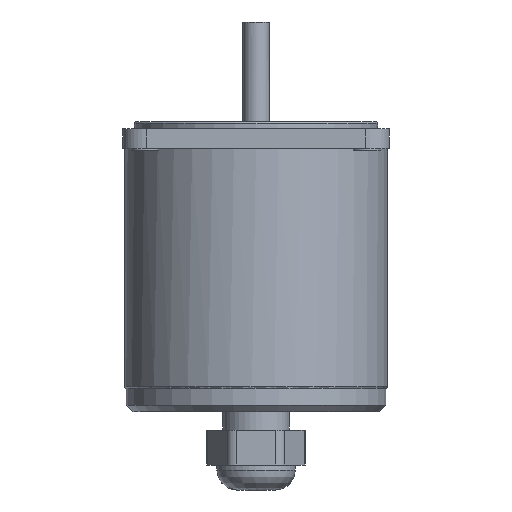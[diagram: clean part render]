
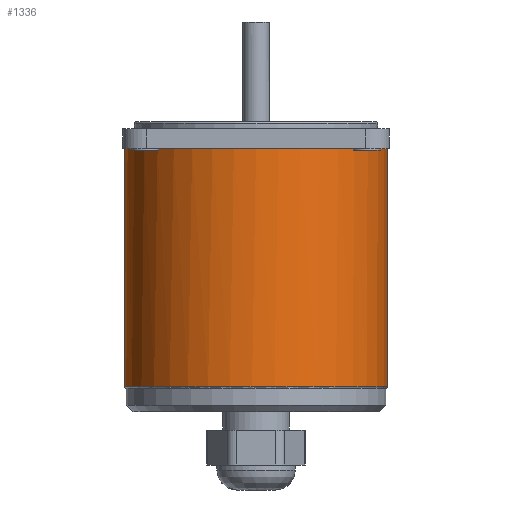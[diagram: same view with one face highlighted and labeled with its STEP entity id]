
A CAD part, front view. The second image highlights one B-rep face of the part: STEP entity #1336.
In plain terms, the highlighted cylindrical face has radius 39.5 mm (diameter 79 mm), a full revolution.
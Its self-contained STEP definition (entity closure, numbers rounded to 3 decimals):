
#1258=CARTESIAN_POINT('',(-39.5,0.,-71.5));
#1259=VERTEX_POINT('',#1258);
#1260=CARTESIAN_POINT('',(0.0,0.0,-71.5));
#1261=DIRECTION('',(0.0,0.0,-1.0));
#1262=DIRECTION('',(1.0,0.0,0.0));
#1263=AXIS2_PLACEMENT_3D('',#1260,#1261,#1262);
#1264=CIRCLE('',#1263,39.5);
#1265=EDGE_CURVE('',#1259,#1259,#1264,.T.);
#1270=CARTESIAN_POINT('',(0.0,0.0,0.0));
#1271=DIRECTION('',(0.0,0.0,-1.0));
#1272=DIRECTION('',(1.0,0.0,0.0));
#1273=AXIS2_PLACEMENT_3D('',#1270,#1271,#1272);
#1274=CYLINDRICAL_SURFACE('',#1273,39.5);
#1275=CARTESIAN_POINT('',(-27.65,28.209,-61.));
#1276=VERTEX_POINT('',#1275);
#1277=CARTESIAN_POINT('',(-27.65,28.209,0.0));
#1278=VERTEX_POINT('',#1277);
#1279=CARTESIAN_POINT('',(-27.65,28.209,-61.));
#1280=DIRECTION('',(0.0,0.0,1.0));
#1281=VECTOR('',#1280,61.);
#1282=LINE('',#1279,#1281);
#1283=EDGE_CURVE('',#1276,#1278,#1282,.T.);
#1284=ORIENTED_EDGE('',*,*,#1283,.F.);
#1285=CARTESIAN_POINT('',(-26.663,29.144,-62.0));
#1286=VERTEX_POINT('',#1285);
#1287=CARTESIAN_POINT('',(-26.663,29.144,-62.));
#1288=CARTESIAN_POINT('',(-26.922,28.906,-62.));
#1289=CARTESIAN_POINT('',(-27.282,28.567,-61.863));
#1290=CARTESIAN_POINT('',(-27.594,28.264,-61.4));
#1291=CARTESIAN_POINT('',(-27.65,28.209,-61.134));
#1292=CARTESIAN_POINT('',(-27.65,28.209,-61.));
#1293=B_SPLINE_CURVE_WITH_KNOTS('',3,(#1287,#1288,#1289,#1290,#1291,#1292),.UNSPECIFIED.,.F.,.U.,(4,1,1,4),(-0.187,-0.08,-0.04,0.),.UNSPECIFIED.);
#1294=EDGE_CURVE('',#1286,#1276,#1293,.T.);
#1295=ORIENTED_EDGE('',*,*,#1294,.F.);
#1296=CARTESIAN_POINT('',(26.663,29.144,-62.0));
#1297=VERTEX_POINT('',#1296);
#1298=CARTESIAN_POINT('',(0.0,0.0,-62.0));
#1299=DIRECTION('',(0.0,0.0,1.0));
#1300=DIRECTION('',(0.0,1.0,0.0));
#1301=AXIS2_PLACEMENT_3D('',#1298,#1299,#1300);
#1302=CIRCLE('',#1301,39.5);
#1303=EDGE_CURVE('',#1297,#1286,#1302,.T.);
#1304=ORIENTED_EDGE('',*,*,#1303,.F.);
#1305=CARTESIAN_POINT('',(27.65,28.209,-61.));
#1306=VERTEX_POINT('',#1305);
#1307=CARTESIAN_POINT('',(27.65,28.209,-61.));
#1308=CARTESIAN_POINT('',(27.65,28.209,-61.178));
#1309=CARTESIAN_POINT('',(27.547,28.309,-61.524));
#1310=CARTESIAN_POINT('',(27.181,28.663,-61.904));
#1311=CARTESIAN_POINT('',(26.857,28.966,-62.0));
#1312=CARTESIAN_POINT('',(26.663,29.144,-62.0));
#1313=B_SPLINE_CURVE_WITH_KNOTS('',3,(#1307,#1308,#1309,#1310,#1311,#1312),.UNSPECIFIED.,.F.,.U.,(4,1,1,4),(-0.187,-0.133,-0.08,0.),.UNSPECIFIED.);
#1314=EDGE_CURVE('',#1306,#1297,#1313,.T.);
#1315=ORIENTED_EDGE('',*,*,#1314,.F.);
#1316=CARTESIAN_POINT('',(27.65,28.209,0.0));
#1317=VERTEX_POINT('',#1316);
#1318=CARTESIAN_POINT('',(27.65,28.209,0.0));
#1319=DIRECTION('',(0.0,0.0,-1.0));
#1320=VECTOR('',#1319,61.);
#1321=LINE('',#1318,#1320);
#1322=EDGE_CURVE('',#1317,#1306,#1321,.T.);
#1323=ORIENTED_EDGE('',*,*,#1322,.F.);
#1324=CARTESIAN_POINT('',(0.0,0.0,0.0));
#1325=DIRECTION('',(0.0,0.0,1.0));
#1326=DIRECTION('',(1.0,0.0,0.0));
#1327=AXIS2_PLACEMENT_3D('',#1324,#1325,#1326);
#1328=CIRCLE('',#1327,39.5);
#1329=EDGE_CURVE('',#1278,#1317,#1328,.T.);
#1330=ORIENTED_EDGE('',*,*,#1329,.F.);
#1331=EDGE_LOOP('',(#1284,#1295,#1304,#1315,#1323,#1330));
#1332=FACE_OUTER_BOUND('',#1331,.T.);
#1333=ORIENTED_EDGE('',*,*,#1265,.F.);
#1334=EDGE_LOOP('',(#1333));
#1335=FACE_BOUND('',#1334,.T.);
#1336=ADVANCED_FACE('',(#1332,#1335),#1274,.T.);
